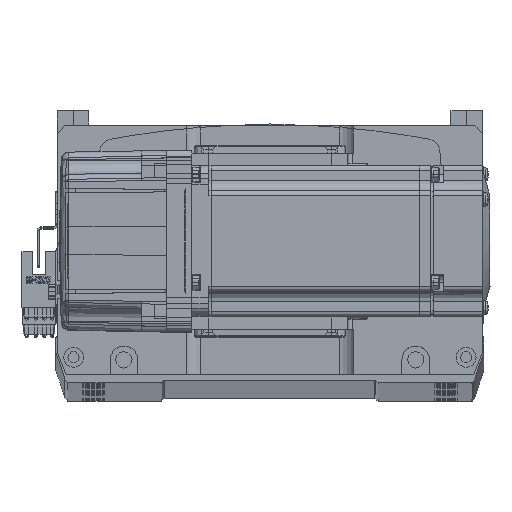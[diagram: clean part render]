
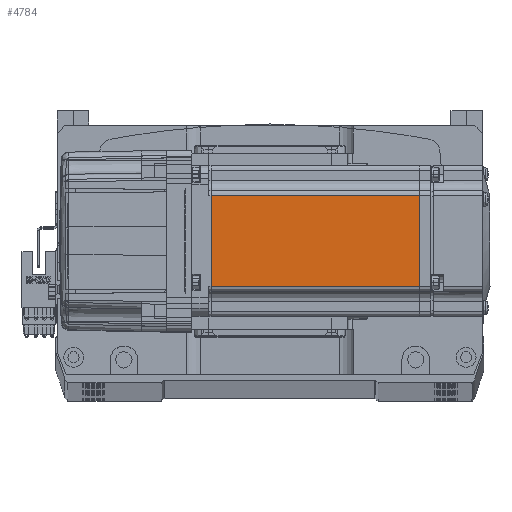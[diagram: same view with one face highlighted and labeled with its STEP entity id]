
A CAD part, top view. The second image highlights one B-rep face of the part: STEP entity #4784.
In plain terms, the highlighted planar face has unit normal (0, 0, 1) as drawn and (0, -1, 0) by its records, which use the part's own axes.
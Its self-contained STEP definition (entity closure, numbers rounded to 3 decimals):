
#3368 = DIRECTION ( 'NONE',  ( 0., 0., -1. ) ) ;
#4706 = EDGE_CURVE ( 'NONE', #6618, #31186, #36183, .T. ) ;
#4784 = ADVANCED_FACE ( 'NONE', ( #25262 ), #20873, .T. ) ;
#5698 = CARTESIAN_POINT ( 'NONE',  ( -90.45, -30., -18. ) ) ;
#6211 = EDGE_LOOP ( 'NONE', ( #46965, #15077, #18320, #65389 ) ) ;
#6618 = VERTEX_POINT ( 'NONE', #22910 ) ;
#11795 = CARTESIAN_POINT ( 'NONE',  ( -7.75, -30., -25. ) ) ;
#15077 = ORIENTED_EDGE ( 'NONE', *, *, #4706, .T. ) ;
#18320 = ORIENTED_EDGE ( 'NONE', *, *, #56356, .T. ) ;
#20873 = PLANE ( 'NONE',  #38156 ) ;
#21452 = VERTEX_POINT ( 'NONE', #68044 ) ;
#22910 = CARTESIAN_POINT ( 'NONE',  ( -7.75, -30., 18. ) ) ;
#23075 = CARTESIAN_POINT ( 'NONE',  ( -90.45, -30., 18. ) ) ;
#25262 = FACE_OUTER_BOUND ( 'NONE', #6211, .T. ) ;
#25290 = VECTOR ( 'NONE', #3368, 1000. ) ;
#26493 = CARTESIAN_POINT ( 'NONE',  ( -6.5, -30., 18. ) ) ;
#26712 = DIRECTION ( 'NONE',  ( 0., -1., 0. ) ) ;
#28729 = VERTEX_POINT ( 'NONE', #5698 ) ;
#31186 = VERTEX_POINT ( 'NONE', #23075 ) ;
#32557 = LINE ( 'NONE', #38862, #25290 ) ;
#32848 = LINE ( 'NONE', #11795, #53825 ) ;
#36183 = LINE ( 'NONE', #26493, #71737 ) ;
#37494 = EDGE_CURVE ( 'NONE', #21452, #6618, #32848, .T. ) ;
#37881 = CARTESIAN_POINT ( 'NONE',  ( -6.5, -30., -18. ) ) ;
#38156 = AXIS2_PLACEMENT_3D ( 'NONE', #61623, #26712, #72351 ) ;
#38862 = CARTESIAN_POINT ( 'NONE',  ( -90.45, -30., -25. ) ) ;
#40269 = EDGE_CURVE ( 'NONE', #28729, #21452, #41789, .T. ) ;
#41789 = LINE ( 'NONE', #37881, #72052 ) ;
#43207 = DIRECTION ( 'NONE',  ( 1., 0., 0. ) ) ;
#46965 = ORIENTED_EDGE ( 'NONE', *, *, #37494, .T. ) ;
#53825 = VECTOR ( 'NONE', #54601, 1000. ) ;
#54601 = DIRECTION ( 'NONE',  ( 0., 0., 1. ) ) ;
#56356 = EDGE_CURVE ( 'NONE', #31186, #28729, #32557, .T. ) ;
#61623 = CARTESIAN_POINT ( 'NONE',  ( -6.5, -30., -25. ) ) ;
#65389 = ORIENTED_EDGE ( 'NONE', *, *, #40269, .T. ) ;
#67243 = DIRECTION ( 'NONE',  ( -1., 0., 0. ) ) ;
#68044 = CARTESIAN_POINT ( 'NONE',  ( -7.75, -30., -18. ) ) ;
#71737 = VECTOR ( 'NONE', #67243, 1000. ) ;
#72052 = VECTOR ( 'NONE', #43207, 1000. ) ;
#72351 = DIRECTION ( 'NONE',  ( 0., 0., -1. ) ) ;
